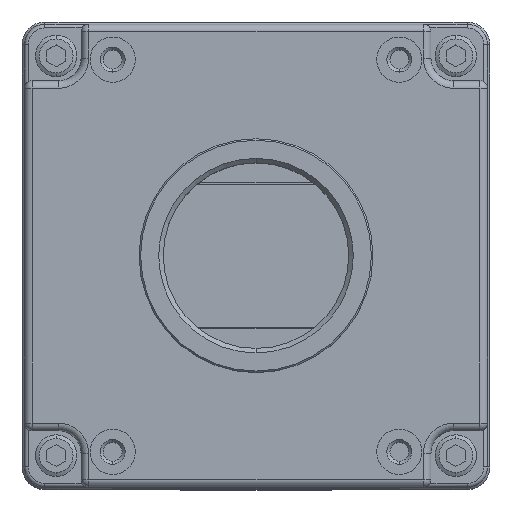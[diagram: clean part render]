
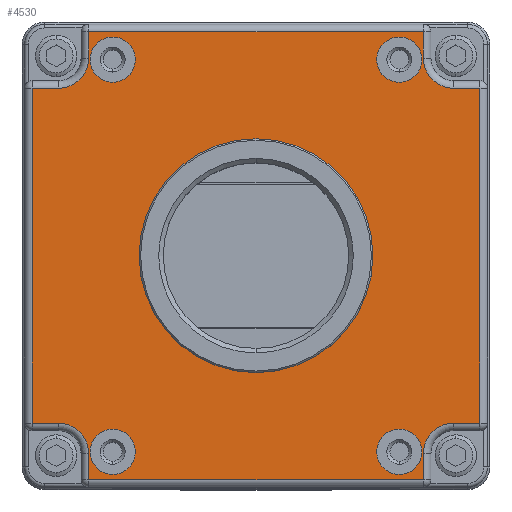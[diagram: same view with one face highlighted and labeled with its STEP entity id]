
A CAD part, top view. The second image highlights one B-rep face of the part: STEP entity #4530.
In plain terms, the highlighted planar face has unit normal (0, 0, 1).
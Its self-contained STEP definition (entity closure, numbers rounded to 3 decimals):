
#2230=CARTESIAN_POINT('',(-55.612,175.9,93.201));
#2240=DIRECTION('',(-0.,0.,1.));
#2250=DIRECTION('',(0.,-1.,0.));
#2260=AXIS2_PLACEMENT_3D('',#2230,#2240,#2250);
#2270=PLANE('',#2260);
#2280=CARTESIAN_POINT('',(-55.612,199.,93.201));
#2290=DIRECTION('',(0.,0.,1.));
#2300=DIRECTION('',(0.,1.,0.));
#2310=AXIS2_PLACEMENT_3D('',#2280,#2290,#2300);
#2320=CIRCLE('',#2310,15.5);
#2330=CARTESIAN_POINT('',(-55.612,214.5,93.201));
#2340=VERTEX_POINT('',#2330);
#2350=CARTESIAN_POINT('',(-55.612,183.5,93.201));
#2360=VERTEX_POINT('',#2350);
#2370=EDGE_CURVE('',#2340,#2360,#2320,.T.);
#2380=ORIENTED_EDGE('',*,*,#2370,.F.);
#2390=EDGE_CURVE('',#2360,#2340,#2320,.T.);
#2400=ORIENTED_EDGE('',*,*,#2390,.F.);
#2410=EDGE_LOOP('',(#2400,#2380));
#2420=FACE_BOUND('',#2410,.T.);
#2430=CARTESIAN_POINT('',(-74.612,173.,93.201));
#2440=DIRECTION('',(0.,0.,1.));
#2450=DIRECTION('',(1.,0.,0.));
#2460=AXIS2_PLACEMENT_3D('',#2430,#2440,#2450);
#2470=CIRCLE('',#2460,3.);
#2480=CARTESIAN_POINT('',(-71.718,172.211,93.201));
#2490=VERTEX_POINT('',#2480);
#2500=CARTESIAN_POINT('',(-71.612,173.,93.201));
#2510=VERTEX_POINT('',#2500);
#2520=EDGE_CURVE('',#2490,#2510,#2470,.T.);
#2530=ORIENTED_EDGE('',*,*,#2520,.F.);
#2540=CARTESIAN_POINT('',(-77.612,173.,93.201));
#2550=VERTEX_POINT('',#2540);
#2560=EDGE_CURVE('',#2510,#2550,#2470,.T.);
#2570=ORIENTED_EDGE('',*,*,#2560,.F.);
#2580=EDGE_CURVE('',#2550,#2490,#2470,.T.);
#2590=ORIENTED_EDGE('',*,*,#2580,.F.);
#2600=EDGE_LOOP('',(#2590,#2570,#2530));
#2610=FACE_BOUND('',#2600,.T.);
#2620=CARTESIAN_POINT('',(-36.612,173.,93.201));
#2630=DIRECTION('',(0.,0.,1.));
#2640=DIRECTION('',(1.,0.,0.));
#2650=AXIS2_PLACEMENT_3D('',#2620,#2630,#2640);
#2660=CIRCLE('',#2650,3.);
#2670=CARTESIAN_POINT('',(-39.507,172.211,93.201));
#2680=VERTEX_POINT('',#2670);
#2690=CARTESIAN_POINT('',(-33.612,173.,93.201));
#2700=VERTEX_POINT('',#2690);
#2710=EDGE_CURVE('',#2680,#2700,#2660,.T.);
#2720=ORIENTED_EDGE('',*,*,#2710,.F.);
#2730=CARTESIAN_POINT('',(-39.612,173.,93.201));
#2740=VERTEX_POINT('',#2730);
#2750=EDGE_CURVE('',#2700,#2740,#2660,.T.);
#2760=ORIENTED_EDGE('',*,*,#2750,.F.);
#2770=EDGE_CURVE('',#2740,#2680,#2660,.T.);
#2780=ORIENTED_EDGE('',*,*,#2770,.F.);
#2790=EDGE_LOOP('',(#2780,#2760,#2720));
#2800=FACE_BOUND('',#2790,.T.);
#2810=CARTESIAN_POINT('',(-74.612,225.,93.201));
#2820=DIRECTION('',(0.,0.,1.));
#2830=DIRECTION('',(1.,0.,0.));
#2840=AXIS2_PLACEMENT_3D('',#2810,#2820,#2830);
#2850=CIRCLE('',#2840,3.);
#2860=CARTESIAN_POINT('',(-71.718,225.789,93.201));
#2870=VERTEX_POINT('',#2860);
#2880=CARTESIAN_POINT('',(-77.612,225.,93.201));
#2890=VERTEX_POINT('',#2880);
#2900=EDGE_CURVE('',#2870,#2890,#2850,.T.);
#2910=ORIENTED_EDGE('',*,*,#2900,.F.);
#2920=CARTESIAN_POINT('',(-71.612,225.,93.201));
#2930=VERTEX_POINT('',#2920);
#2940=EDGE_CURVE('',#2890,#2930,#2850,.T.);
#2950=ORIENTED_EDGE('',*,*,#2940,.F.);
#2960=EDGE_CURVE('',#2930,#2870,#2850,.T.);
#2970=ORIENTED_EDGE('',*,*,#2960,.F.);
#2980=EDGE_LOOP('',(#2970,#2950,#2910));
#2990=FACE_BOUND('',#2980,.T.);
#3000=CARTESIAN_POINT('',(-36.612,225.,93.201));
#3010=DIRECTION('',(0.,0.,1.));
#3020=DIRECTION('',(1.,0.,0.));
#3030=AXIS2_PLACEMENT_3D('',#3000,#3010,#3020);
#3040=CIRCLE('',#3030,3.);
#3050=CARTESIAN_POINT('',(-39.507,225.789,93.201));
#3060=VERTEX_POINT('',#3050);
#3070=CARTESIAN_POINT('',(-39.612,225.,93.201));
#3080=VERTEX_POINT('',#3070);
#3090=EDGE_CURVE('',#3060,#3080,#3040,.T.);
#3100=ORIENTED_EDGE('',*,*,#3090,.F.);
#3110=CARTESIAN_POINT('',(-33.612,225.,93.201));
#3120=VERTEX_POINT('',#3110);
#3130=EDGE_CURVE('',#3080,#3120,#3040,.T.);
#3140=ORIENTED_EDGE('',*,*,#3130,.F.);
#3150=EDGE_CURVE('',#3120,#3060,#3040,.T.);
#3160=ORIENTED_EDGE('',*,*,#3150,.F.);
#3170=EDGE_LOOP('',(#3160,#3140,#3100));
#3180=FACE_BOUND('',#3170,.T.);
#3190=CARTESIAN_POINT('',(-85.312,205.58,93.201));
#3200=DIRECTION('',(0.,1.,0.));
#3210=VECTOR('',#3200,1.);
#3220=LINE('',#3190,#3210);
#3230=CARTESIAN_POINT('',(-85.312,176.8,93.201));
#3240=VERTEX_POINT('',#3230);
#3250=CARTESIAN_POINT('',(-85.312,221.2,93.201));
#3260=VERTEX_POINT('',#3250);
#3270=EDGE_CURVE('',#3240,#3260,#3220,.T.);
#3280=ORIENTED_EDGE('',*,*,#3270,.F.);
#3290=CARTESIAN_POINT('',(-55.612,221.2,93.201));
#3300=DIRECTION('',(1.,0.,0.));
#3310=VECTOR('',#3300,1.);
#3320=LINE('',#3290,#3310);
#3330=CARTESIAN_POINT('',(-81.812,221.2,93.201));
#3340=VERTEX_POINT('',#3330);
#3350=EDGE_CURVE('',#3260,#3340,#3320,.T.);
#3360=ORIENTED_EDGE('',*,*,#3350,.F.);
#3370=CARTESIAN_POINT('',(-81.812,225.2,93.201));
#3380=DIRECTION('',(0.,0.,-1.));
#3390=DIRECTION('',(0.,-1.,0.));
#3400=AXIS2_PLACEMENT_3D('',#3370,#3380,#3390);
#3410=CIRCLE('',#3400,4.);
#3420=CARTESIAN_POINT('',(-77.812,225.2,93.201));
#3430=VERTEX_POINT('',#3420);
#3440=EDGE_CURVE('',#3430,#3340,#3410,.T.);
#3450=ORIENTED_EDGE('',*,*,#3440,.T.);
#3460=CARTESIAN_POINT('',(-77.812,205.58,93.201));
#3470=DIRECTION('',(0.,1.,0.));
#3480=VECTOR('',#3470,1.);
#3490=LINE('',#3460,#3480);
#3500=CARTESIAN_POINT('',(-77.812,228.7,93.201));
#3510=VERTEX_POINT('',#3500);
#3520=EDGE_CURVE('',#3430,#3510,#3490,.T.);
#3530=ORIENTED_EDGE('',*,*,#3520,.F.);
#3540=CARTESIAN_POINT('',(-55.612,228.7,93.201));
#3550=DIRECTION('',(1.,0.,0.));
#3560=VECTOR('',#3550,1.);
#3570=LINE('',#3540,#3560);
#3580=CARTESIAN_POINT('',(-33.412,228.7,93.201));
#3590=VERTEX_POINT('',#3580);
#3600=EDGE_CURVE('',#3510,#3590,#3570,.T.);
#3610=ORIENTED_EDGE('',*,*,#3600,.F.);
#3620=CARTESIAN_POINT('',(-33.412,205.58,93.201));
#3630=DIRECTION('',(0.,-1.,0.));
#3640=VECTOR('',#3630,1.);
#3650=LINE('',#3620,#3640);
#3660=CARTESIAN_POINT('',(-33.412,225.2,93.201));
#3670=VERTEX_POINT('',#3660);
#3680=EDGE_CURVE('',#3590,#3670,#3650,.T.);
#3690=ORIENTED_EDGE('',*,*,#3680,.F.);
#3700=CARTESIAN_POINT('',(-29.412,225.2,93.201));
#3710=DIRECTION('',(0.,0.,-1.));
#3720=DIRECTION('',(0.,-1.,0.));
#3730=AXIS2_PLACEMENT_3D('',#3700,#3710,#3720);
#3740=CIRCLE('',#3730,4.);
#3750=CARTESIAN_POINT('',(-29.412,221.2,93.201));
#3760=VERTEX_POINT('',#3750);
#3770=EDGE_CURVE('',#3760,#3670,#3740,.T.);
#3780=ORIENTED_EDGE('',*,*,#3770,.T.);
#3790=CARTESIAN_POINT('',(-55.612,221.2,93.201));
#3800=DIRECTION('',(1.,0.,0.));
#3810=VECTOR('',#3800,1.);
#3820=LINE('',#3790,#3810);
#3830=CARTESIAN_POINT('',(-25.912,221.2,93.201));
#3840=VERTEX_POINT('',#3830);
#3850=EDGE_CURVE('',#3760,#3840,#3820,.T.);
#3860=ORIENTED_EDGE('',*,*,#3850,.F.);
#3870=CARTESIAN_POINT('',(-25.912,205.58,93.201));
#3880=DIRECTION('',(0.,-1.,0.));
#3890=VECTOR('',#3880,1.);
#3900=LINE('',#3870,#3890);
#3910=CARTESIAN_POINT('',(-25.912,176.8,93.201));
#3920=VERTEX_POINT('',#3910);
#3930=EDGE_CURVE('',#3840,#3920,#3900,.T.);
#3940=ORIENTED_EDGE('',*,*,#3930,.F.);
#3950=CARTESIAN_POINT('',(-55.612,176.8,93.201));
#3960=DIRECTION('',(-1.,0.,0.));
#3970=VECTOR('',#3960,1.);
#3980=LINE('',#3950,#3970);
#3990=CARTESIAN_POINT('',(-29.412,176.8,93.201));
#4000=VERTEX_POINT('',#3990);
#4010=EDGE_CURVE('',#3920,#4000,#3980,.T.);
#4020=ORIENTED_EDGE('',*,*,#4010,.F.);
#4030=CARTESIAN_POINT('',(-29.412,172.8,93.201));
#4040=DIRECTION('',(0.,0.,1.));
#4050=DIRECTION('',(0.,1.,0.));
#4060=AXIS2_PLACEMENT_3D('',#4030,#4040,#4050);
#4070=CIRCLE('',#4060,4.);
#4080=CARTESIAN_POINT('',(-33.412,172.8,93.201));
#4090=VERTEX_POINT('',#4080);
#4100=EDGE_CURVE('',#4000,#4090,#4070,.T.);
#4110=ORIENTED_EDGE('',*,*,#4100,.F.);
#4120=CARTESIAN_POINT('',(-33.412,205.58,93.201));
#4130=DIRECTION('',(0.,-1.,0.));
#4140=VECTOR('',#4130,1.);
#4150=LINE('',#4120,#4140);
#4160=CARTESIAN_POINT('',(-33.412,169.3,93.201));
#4170=VERTEX_POINT('',#4160);
#4180=EDGE_CURVE('',#4090,#4170,#4150,.T.);
#4190=ORIENTED_EDGE('',*,*,#4180,.F.);
#4200=CARTESIAN_POINT('',(-55.612,169.3,93.201));
#4210=DIRECTION('',(-1.,0.,0.));
#4220=VECTOR('',#4210,1.);
#4230=LINE('',#4200,#4220);
#4240=CARTESIAN_POINT('',(-77.812,169.3,93.201));
#4250=VERTEX_POINT('',#4240);
#4260=EDGE_CURVE('',#4170,#4250,#4230,.T.);
#4270=ORIENTED_EDGE('',*,*,#4260,.F.);
#4280=CARTESIAN_POINT('',(-77.812,205.58,93.201));
#4290=DIRECTION('',(0.,1.,0.));
#4300=VECTOR('',#4290,1.);
#4310=LINE('',#4280,#4300);
#4320=CARTESIAN_POINT('',(-77.812,172.8,93.201));
#4330=VERTEX_POINT('',#4320);
#4340=EDGE_CURVE('',#4250,#4330,#4310,.T.);
#4350=ORIENTED_EDGE('',*,*,#4340,.F.);
#4360=CARTESIAN_POINT('',(-81.812,172.8,93.201));
#4370=DIRECTION('',(0.,0.,1.));
#4380=DIRECTION('',(0.,1.,0.));
#4390=AXIS2_PLACEMENT_3D('',#4360,#4370,#4380);
#4400=CIRCLE('',#4390,4.);
#4410=CARTESIAN_POINT('',(-81.812,176.8,93.201));
#4420=VERTEX_POINT('',#4410);
#4430=EDGE_CURVE('',#4330,#4420,#4400,.T.);
#4440=ORIENTED_EDGE('',*,*,#4430,.F.);
#4450=CARTESIAN_POINT('',(-55.612,176.8,93.201));
#4460=DIRECTION('',(-1.,0.,0.));
#4470=VECTOR('',#4460,1.);
#4480=LINE('',#4450,#4470);
#4490=EDGE_CURVE('',#4420,#3240,#4480,.T.);
#4500=ORIENTED_EDGE('',*,*,#4490,.F.);
#4510=EDGE_LOOP('',(#4500,#4440,#4350,#4270,#4190,#4110,#4020,#3940,
#3860,#3780,#3690,#3610,#3530,#3450,#3360,#3280));
#4520=FACE_OUTER_BOUND('',#4510,.T.);
#4530=ADVANCED_FACE('',(#2420,#2610,#2800,#2990,#3180,#4520),#2270,.T.);
